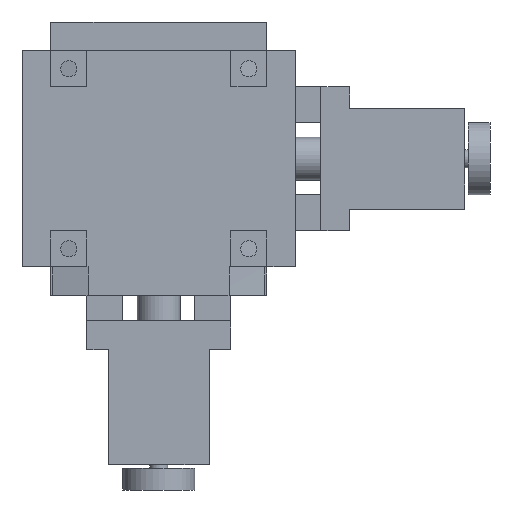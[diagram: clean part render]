
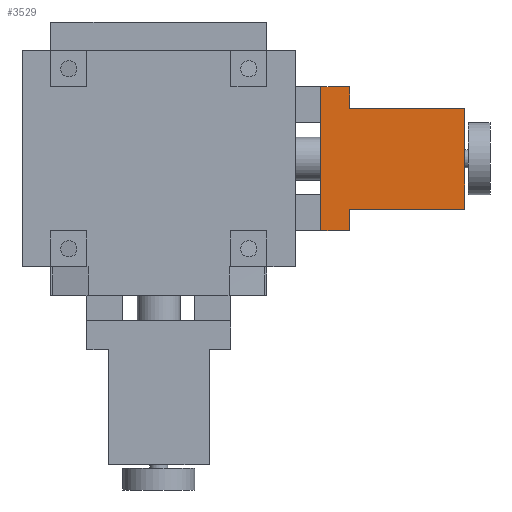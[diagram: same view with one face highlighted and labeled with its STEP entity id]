
A CAD part, front view. The second image highlights one B-rep face of the part: STEP entity #3529.
In plain terms, the highlighted planar face has unit normal (0, -1, 0) as drawn and (0, 0, -1) by its records, which use the part's own axes.
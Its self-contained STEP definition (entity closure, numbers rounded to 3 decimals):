
#45 = VERTEX_POINT ( 'NONE', #1813 ) ;
#1053 = DIRECTION ( 'NONE',  ( -1., 0., 0. ) ) ;
#1269 = AXIS2_PLACEMENT_3D ( 'NONE', #4136, #11496, #5194 ) ;
#1635 = DIRECTION ( 'NONE',  ( 0., 1., 0. ) ) ;
#1813 = CARTESIAN_POINT ( 'NONE',  ( 85., -14., -14. ) ) ;
#1959 = CARTESIAN_POINT ( 'NONE',  ( 45., -20., -14. ) ) ;
#2139 = VECTOR ( 'NONE', #7387, 1000. ) ;
#2187 = VERTEX_POINT ( 'NONE', #12619 ) ;
#2192 = EDGE_CURVE ( 'NONE', #5771, #2935, #10858, .T. ) ;
#2406 = LINE ( 'NONE', #11685, #7682 ) ;
#2878 = EDGE_CURVE ( 'NONE', #2935, #9653, #3611, .T. ) ;
#2935 = VERTEX_POINT ( 'NONE', #13612 ) ;
#3299 = CARTESIAN_POINT ( 'NONE',  ( 53., -20., -14. ) ) ;
#3529 = ADVANCED_FACE ( 'NONE', ( #7209 ), #9355, .F. ) ;
#3591 = CARTESIAN_POINT ( 'NONE',  ( 53., -20., -14. ) ) ;
#3611 = LINE ( 'NONE', #1959, #6732 ) ;
#3818 = VERTEX_POINT ( 'NONE', #4525 ) ;
#4049 = VERTEX_POINT ( 'NONE', #4971 ) ;
#4136 = CARTESIAN_POINT ( 'NONE',  ( 53., -20., -14. ) ) ;
#4399 = EDGE_CURVE ( 'NONE', #4049, #3818, #8183, .T. ) ;
#4525 = CARTESIAN_POINT ( 'NONE',  ( 53., 20., -14. ) ) ;
#4546 = ORIENTED_EDGE ( 'NONE', *, *, #2878, .T. ) ;
#4639 = DIRECTION ( 'NONE',  ( 0., 1., 0. ) ) ;
#4971 = CARTESIAN_POINT ( 'NONE',  ( 53., 14., -14. ) ) ;
#5051 = VECTOR ( 'NONE', #4639, 1000. ) ;
#5162 = LINE ( 'NONE', #9014, #9776 ) ;
#5194 = DIRECTION ( 'NONE',  ( 1., 0., 0. ) ) ;
#5771 = VERTEX_POINT ( 'NONE', #3299 ) ;
#5939 = VECTOR ( 'NONE', #9371, 1000. ) ;
#6266 = VERTEX_POINT ( 'NONE', #12486 ) ;
#6331 = LINE ( 'NONE', #13635, #11597 ) ;
#6732 = VECTOR ( 'NONE', #10368, 1000. ) ;
#7209 = FACE_OUTER_BOUND ( 'NONE', #12758, .T. ) ;
#7387 = DIRECTION ( 'NONE',  ( -1., 0., 0. ) ) ;
#7682 = VECTOR ( 'NONE', #10669, 1000. ) ;
#8183 = LINE ( 'NONE', #3591, #5051 ) ;
#8880 = ORIENTED_EDGE ( 'NONE', *, *, #11207, .F. ) ;
#8994 = EDGE_CURVE ( 'NONE', #6266, #4049, #9740, .T. ) ;
#9014 = CARTESIAN_POINT ( 'NONE',  ( 53., -20., -14. ) ) ;
#9355 = PLANE ( 'NONE',  #1269 ) ;
#9371 = DIRECTION ( 'NONE',  ( -1., 0., 0. ) ) ;
#9468 = ORIENTED_EDGE ( 'NONE', *, *, #11626, .T. ) ;
#9513 = CARTESIAN_POINT ( 'NONE',  ( 53., -20., -14. ) ) ;
#9623 = CARTESIAN_POINT ( 'NONE',  ( 45., 20., -14. ) ) ;
#9653 = VERTEX_POINT ( 'NONE', #9623 ) ;
#9673 = EDGE_CURVE ( 'NONE', #6266, #45, #2406, .T. ) ;
#9740 = LINE ( 'NONE', #11475, #5939 ) ;
#9776 = VECTOR ( 'NONE', #1635, 1000. ) ;
#9845 = ORIENTED_EDGE ( 'NONE', *, *, #8994, .F. ) ;
#9883 = ORIENTED_EDGE ( 'NONE', *, *, #9673, .T. ) ;
#10174 = ORIENTED_EDGE ( 'NONE', *, *, #10815, .F. ) ;
#10368 = DIRECTION ( 'NONE',  ( 0., 1., 0. ) ) ;
#10669 = DIRECTION ( 'NONE',  ( 0., -1., 0. ) ) ;
#10731 = ORIENTED_EDGE ( 'NONE', *, *, #2192, .T. ) ;
#10815 = EDGE_CURVE ( 'NONE', #3818, #9653, #6331, .T. ) ;
#10858 = LINE ( 'NONE', #9513, #2139 ) ;
#11062 = VECTOR ( 'NONE', #13128, 1000. ) ;
#11207 = EDGE_CURVE ( 'NONE', #5771, #2187, #5162, .T. ) ;
#11475 = CARTESIAN_POINT ( 'NONE',  ( 85., 14., -14. ) ) ;
#11496 = DIRECTION ( 'NONE',  ( 0., 0., 1. ) ) ;
#11597 = VECTOR ( 'NONE', #1053, 1000. ) ;
#11626 = EDGE_CURVE ( 'NONE', #45, #2187, #13533, .T. ) ;
#11685 = CARTESIAN_POINT ( 'NONE',  ( 85., 14., -14. ) ) ;
#12089 = CARTESIAN_POINT ( 'NONE',  ( 85., -14., -14. ) ) ;
#12486 = CARTESIAN_POINT ( 'NONE',  ( 85., 14., -14. ) ) ;
#12619 = CARTESIAN_POINT ( 'NONE',  ( 53., -14., -14. ) ) ;
#12758 = EDGE_LOOP ( 'NONE', ( #4546, #10174, #13074, #9845, #9883, #9468, #8880, #10731 ) ) ;
#13074 = ORIENTED_EDGE ( 'NONE', *, *, #4399, .F. ) ;
#13128 = DIRECTION ( 'NONE',  ( -1., 0., 0. ) ) ;
#13533 = LINE ( 'NONE', #12089, #11062 ) ;
#13612 = CARTESIAN_POINT ( 'NONE',  ( 45., -20., -14. ) ) ;
#13635 = CARTESIAN_POINT ( 'NONE',  ( 53., 20., -14. ) ) ;
